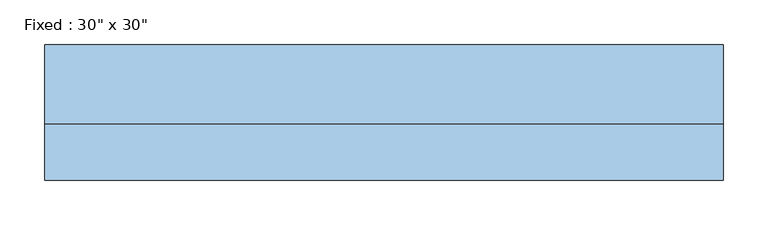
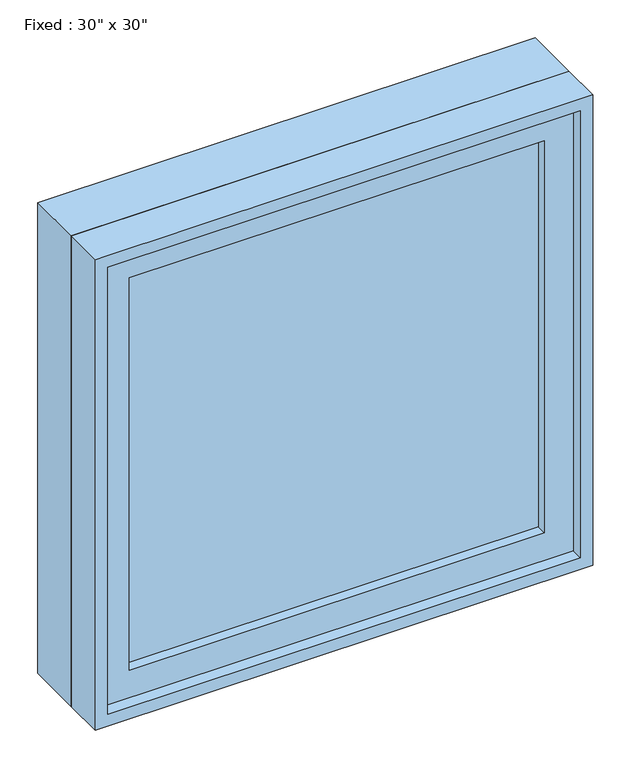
"""IFC4 building model written with IfcOpenShell, lengths in millimetres: window geometry."""

import ifcopenshell
import ifcopenshell.guid

model = None  # the IFC model being written
_history = None  # IfcOwnerHistory: only IFC2X3 demands one
_inside = {}  # id of a spatial element -> (the spatial element, [elements in it])
_under = {}  # id of a project, library or spatial element -> (it, [spatial elements below it])
_declared = {}  # id of a project -> (the project, [libraries it declares])
_typed = {}  # id of a type object -> (the type object, [elements of that type])
_made_of = {}  # id of a material, layer set ... -> (it, [elements and type objects made of it])


def new_model(schema):
    """Start an empty IFC model of exactly this schema.

    Asked for "IFC4X3", IfcOpenShell would pick the latest addendum, in which some entities
    have other attributes; the version numbers below select the first issue.
    IFC2X3 requires an IfcOwnerHistory on every rooted entity: one is made here for all.
    """
    global model, _history
    if schema == "IFC4X3":
        model = ifcopenshell.file(schema_version=(4, 3, 0, 0))
    else:
        model = ifcopenshell.file(schema=schema)
    _inside.clear()
    _under.clear()
    _declared.clear()
    _typed.clear()
    _made_of.clear()
    _history = None
    if model.schema == "IFC2X3":
        org = make("IfcOrganization", Name="unknown")
        user = make(
            "IfcPersonAndOrganization",
            ThePerson=make("IfcPerson", FamilyName="unknown"),
            TheOrganization=org,
        )
        app = make(
            "IfcApplication",
            ApplicationDeveloper=org,
            Version="unknown",
            ApplicationFullName="unknown",
            ApplicationIdentifier="unknown",
        )
        _history = make(
            "IfcOwnerHistory",
            OwningUser=user,
            OwningApplication=app,
            ChangeAction="ADDED",
            CreationDate=0,
        )
    return model


def make(cls, **values):
    """One entity of the class cls with the attributes given. An attribute that is None is left unset."""
    return model.create_entity(
        cls, **{name: value for name, value in values.items() if value is not None}
    )


def rooted(cls, **values):
    """An entity with a GlobalId (a new one), such as an element, a storey or a relation."""
    return make(cls, GlobalId=ifcopenshell.guid.new(), OwnerHistory=_history, **values)


def si_unit(unit_type, name, prefix=None):
    """IfcSIUnit, for example si_unit("LENGTHUNIT", "METRE", prefix="MILLI")."""
    return make("IfcSIUnit", UnitType=unit_type, Prefix=prefix, Name=name)


def assignment(units):
    """IfcUnitAssignment: the units of a project."""
    return None if units is None else make("IfcUnitAssignment", Units=units)


def point(xyz):
    """IfcCartesianPoint."""
    return None if xyz is None else make("IfcCartesianPoint", Coordinates=xyz)


def direction(xyz):
    """IfcDirection."""
    return None if xyz is None else make("IfcDirection", DirectionRatios=xyz)


def frame(location, z_axis=None, x_axis=None):
    """IfcAxis2Placement3D, a coordinate frame: its origin and axes. An axis left out is left unset."""
    return make(
        "IfcAxis2Placement3D",
        Location=point(location),
        Axis=direction(z_axis),
        RefDirection=direction(x_axis),
    )


def origin():
    """The frame at (0, 0, 0) with its axes left unset."""
    return frame((0.0, 0.0, 0.0))


def place(relative_to, where):
    """IfcLocalPlacement: puts the frame where relative to a parent placement (None: the world)."""
    return make(
        "IfcLocalPlacement", PlacementRelTo=relative_to, RelativePlacement=where
    )


def context(
    kind, dimensions, precision=None, world=None, true_north=None, identifier=None
):
    """IfcGeometricRepresentationContext, for example the 3D "Model" context."""
    return make(
        "IfcGeometricRepresentationContext",
        ContextIdentifier=identifier,
        ContextType=kind,
        CoordinateSpaceDimension=dimensions,
        Precision=precision,
        WorldCoordinateSystem=world,
        TrueNorth=true_north,
    )


def project(units=None, contexts=None):
    """IfcProject with its units and contexts."""
    return rooted(
        "IfcProject",
        Name="project",
        RepresentationContexts=contexts,
        UnitsInContext=assignment(units),
    )


def spatial(cls, under=None, at=None, **own):
    """A site, building, storey or space (cls), placed at a placement, below another one or the project."""
    s = rooted(cls, ObjectPlacement=at, **own)
    if under is not None:
        _under.setdefault(under.id(), (under, []))[1].append(s)
    return s


def polyline(points):
    """IfcPolyline through the points."""
    return make("IfcPolyline", Points=[point(p) for p in points])


def outline(outer, holes=None, kind="AREA"):
    """IfcArbitraryClosedProfileDef: a profile drawn as a closed curve; with holes, ...WithVoids."""
    if holes is None:
        return make("IfcArbitraryClosedProfileDef", ProfileType=kind, OuterCurve=outer)
    return make(
        "IfcArbitraryProfileDefWithVoids",
        ProfileType=kind,
        OuterCurve=outer,
        InnerCurves=holes,
    )


def extrude(swept, where, along, depth):
    """IfcExtrudedAreaSolid: the profile swept, set in the frame where, extruded along a direction by depth."""
    return make(
        "IfcExtrudedAreaSolid",
        SweptArea=swept,
        Position=where,
        ExtrudedDirection=direction(along),
        Depth=depth,
    )


def shape(context_of_items, identifier, shape_type, items):
    """IfcShapeRepresentation: the items that make up one representation, for example the "Body"."""
    return make(
        "IfcShapeRepresentation",
        ContextOfItems=context_of_items,
        RepresentationIdentifier=identifier,
        RepresentationType=shape_type,
        Items=items,
    )


def source(mapping_origin, context_of_items, identifier, shape_type, items):
    """IfcRepresentationMap: a shape defined once, which mapped items show again and again."""
    return make(
        "IfcRepresentationMap",
        MappingOrigin=mapping_origin,
        MappedRepresentation=shape(context_of_items, identifier, shape_type, items),
    )


def transform(
    local_origin,
    x_axis=None,
    y_axis=None,
    z_axis=None,
    scale=None,
    scale2=None,
    scale3=None,
    uniform=True,
):
    """IfcCartesianTransformationOperator3D, or its non-uniform kind. x_axis, y_axis, z_axis: its Axis1, 2, 3."""
    if uniform:
        return make(
            "IfcCartesianTransformationOperator3D",
            Axis1=direction(x_axis),
            Axis2=direction(y_axis),
            LocalOrigin=point(local_origin),
            Scale=scale,
            Axis3=direction(z_axis),
        )
    return make(
        "IfcCartesianTransformationOperator3DnonUniform",
        Axis1=direction(x_axis),
        Axis2=direction(y_axis),
        LocalOrigin=point(local_origin),
        Scale=scale,
        Axis3=direction(z_axis),
        Scale2=scale2,
        Scale3=scale3,
    )


def mapped(mapping_source, mapping_target):
    """IfcMappedItem: shows the shape of a source again, moved by a transform."""
    return make(
        "IfcMappedItem", MappingSource=mapping_source, MappingTarget=mapping_target
    )


def made_of(thing, what):
    """Note that an element or type object is made of a material, layer set ...; save() writes the relation."""
    if what is not None:
        _made_of.setdefault(what.id(), (what, []))[1].append(thing)
    return thing


def element(
    cls,
    number,
    at=None,
    inside=None,
    cuts=None,
    type_object=None,
    material=None,
    context=None,
    identifier="Body",
    shape_type=None,
    held_by="IfcProductDefinitionShape",
    body=None,
    shapes=None,
    **own,
):
    """One element of the class cls, such as IfcWall. Its Tag is "e" and its number.

    at: its placement. inside: the storey or other place that contains it. cuts: it is an
    opening in that element (IfcRelVoidsElement). A single representation is given by context,
    identifier, shape_type and body (its items); several are given by shapes. held_by: the class
    of the entity that holds the representations. save() writes the other relations.
    """
    e = rooted(cls, Tag="e%d" % number, ObjectPlacement=at, **own)
    if body is not None:
        shapes = [shape(context, identifier, shape_type, body)]
    if shapes is not None:
        e.Representation = make(held_by, Representations=shapes)
    if inside is not None:
        _inside.setdefault(inside.id(), (inside, []))[1].append(e)
    if cuts is not None:
        rooted(
            "IfcRelVoidsElement", RelatingBuildingElement=cuts, RelatedOpeningElement=e
        )
    if type_object is not None:
        _typed.setdefault(type_object.id(), (type_object, []))[1].append(e)
    return made_of(e, material)


def aggregate(whole, parts):
    """IfcRelAggregates: a whole, such as a stair, and the parts it consists of."""
    return rooted("IfcRelAggregates", RelatingObject=whole, RelatedObjects=parts)


def save(model, path):
    """Write the relations noted so far, then the file.

    IfcRelAggregates (storeys below a building ...), IfcRelContainedInSpatialStructure (elements
    in a storey), IfcRelDefinesByType, IfcRelAssociatesMaterial and IfcRelDeclares: one each for
    every whole, place, type object, material and project.
    """
    for whole, parts in _under.values():
        aggregate(whole, parts)
    for where, things in _inside.values():
        rooted(
            "IfcRelContainedInSpatialStructure",
            RelatedElements=things,
            RelatingStructure=where,
        )
    for kind, things in _typed.values():
        rooted("IfcRelDefinesByType", RelatedObjects=things, RelatingType=kind)
    for what, things in _made_of.values():
        rooted("IfcRelAssociatesMaterial", RelatedObjects=things, RelatingMaterial=what)
    for by, libraries in _declared.values():
        rooted("IfcRelDeclares", RelatingContext=by, RelatedDefinitions=libraries)
    model.write(path)


def window_def9d500(model_context):
    return source(origin(), model_context, "Body", "SweptSolid", [
        extrude(outline(polyline([(279.4, -28.575), (279.4, -41.275), (-355.6, -41.275), (-355.6, -28.575), (279.4, -28.575)])), frame((0.0, 0.0, 825.5), z_axis=(0.0, 0.0, 1.0), x_axis=(1.0, 0.0, 0.0)), (0.0, 0.0, 1.0), 635.0),
        extrude(outline(polyline([(1504.95, -400.05), (781.05, -400.05), (781.05, 323.85), (1504.95, 323.85), (1504.95, -400.05)]), holes=[polyline([(1460.5, -355.6), (1460.5, 279.4), (825.5, 279.4), (825.5, -355.6), (1460.5, -355.6)])]), frame((0.0, -57.15, 0.0), z_axis=(0.0, 1.0, 0.0), x_axis=(0.0, 0.0, 1.0)), (0.0, 0.0, 1.0), 44.45),
        extrude(outline(polyline([(1524.0, -419.1), (762.0, -419.1), (762.0, 342.9), (1524.0, 342.9), (1524.0, -419.1)]), holes=[polyline([(1492.25, -387.35), (1492.25, 311.15), (793.75, 311.15), (793.75, -387.35), (1492.25, -387.35)])]), frame((0.0, -12.7, 0.0), z_axis=(0.0, 1.0, 0.0), x_axis=(0.0, 0.0, 1.0)), (0.0, 0.0, 1.0), 88.9),
        extrude(outline(polyline([(1524.0, 342.9), (1524.0, -419.1), (762.0, -419.1), (762.0, 342.9), (1524.0, 342.9)]), holes=[polyline([(1504.95, 323.85), (781.05, 323.85), (781.05, -400.05), (1504.95, -400.05), (1504.95, 323.85)])]), frame((0.0, -76.2, 0.0), z_axis=(0.0, 1.0, 0.0), x_axis=(0.0, 0.0, 1.0)), (0.0, 0.0, 1.0), 63.5),
    ])


if __name__ == "__main__":
    model = new_model("IFC4")
    model_context = context("Model", 3, world=origin())
    ifc_project = project(units=[si_unit("LENGTHUNIT", "METRE", prefix="MILLI")], contexts=[model_context])
    site = spatial("IfcSite", under=ifc_project)
    building = spatial("IfcBuilding", under=site)
    placement = place(None, origin())
    window_shape = window_def9d500(model_context)
    element("IfcWindow", 1, ObjectType="Fixed : 30\" x 30\"", at=placement, inside=building, context=model_context, shape_type="MappedRepresentation", body=[
        mapped(window_shape, transform((0.0, 0.0, 0.0), x_axis=(1.0, 0.0, 0.0), y_axis=(0.0, 1.0, 0.0), z_axis=(0.0, 0.0, 1.0))),
    ])
    save(model, "model.ifc")
